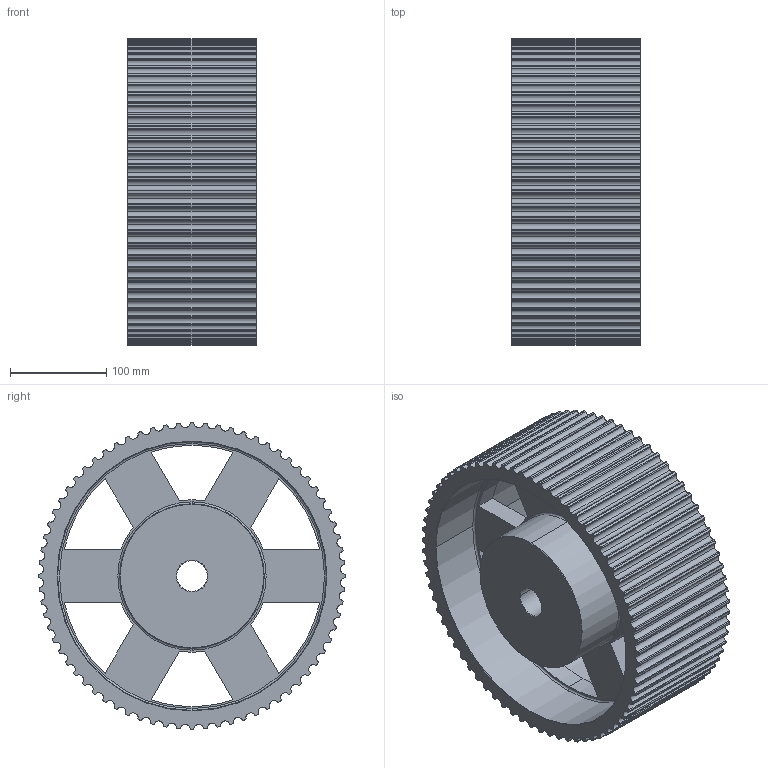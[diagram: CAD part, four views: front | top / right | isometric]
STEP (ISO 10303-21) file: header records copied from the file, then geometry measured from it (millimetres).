
FILE_DESCRIPTION(('STEP AP214'),'1');
FILE_NAME('72_-_14_m_115.stp','2018-09-28T13:25:30',('TraceParts'),('TraceParts S.A.'),'Spatial InterOp 3D',' ',' ');
FILE_SCHEMA(('automotive_design'));
Length unit declared in the file: millimetre
Products named in the file (1): 72_-_14_m_115
Bounding box: 133 x 318.06 x 318.06 mm (x, y, z)
Volume: 4819037.7 mm3; surface area: 480552.3 mm2
Topology: 1 solids, 1 shells, 424 faces, 1242 edges, 824 vertices
Faces by surface type: cylinder 386, plane 18, cone 12, torus 8
Entity records: 14601 total; most frequent: DIRECTION 2900, CARTESIAN_POINT 2491, ORIENTED_EDGE 2484, EDGE_CURVE 1242, AXIS2_PLACEMENT_3D 1233, VERTEX_POINT 824, CIRCLE 808, EDGE_LOOP 442
